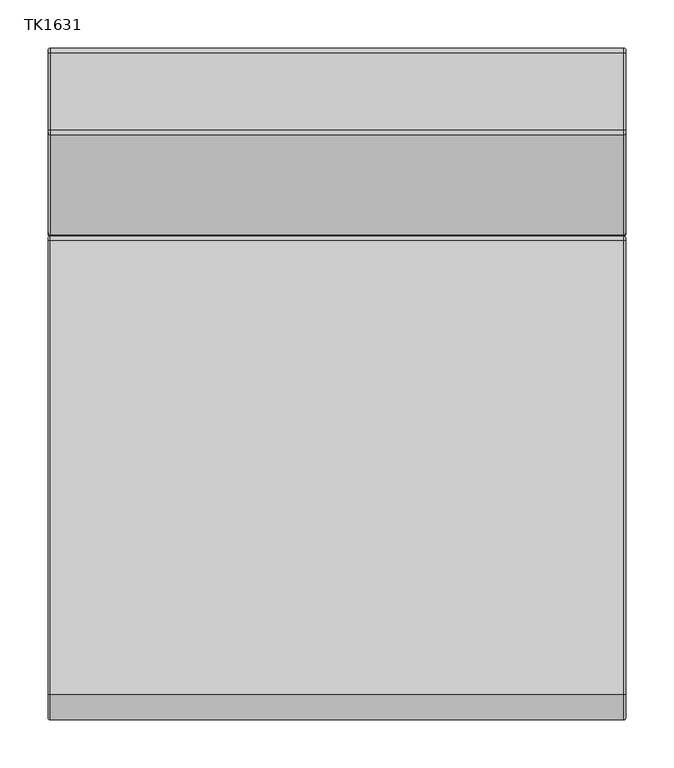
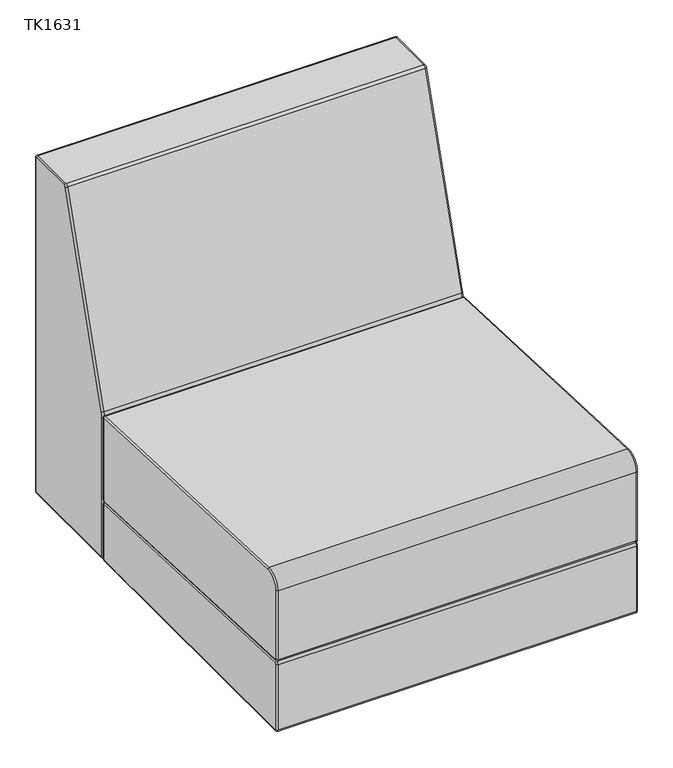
"""IFC4 building model written with IfcOpenShell, lengths in millimetres: furniture geometry, JSI-Teekan-Three_Seat_Lounge : TK1631."""

from ifc_helpers import new_model, si_unit, point, frame, origin, place, context, project, spatial, circle_curve, ellipse_curve, trimmed, source, transform, mapped, element, save
from ifc_brep_helpers import plane_surface, cylinder_surface, revolved_surface, advanced_brep


def tk1631_d5cb96e8(model_context):
    return source(origin(), model_context, "Body", "AdvancedBrep", [
        advanced_brep(
        [(899.5171875, 148.7693192, 295.6513391), (899.5171875, 153.733973, 300.4095468), (901.8984375, 151.352723, 300.4095468), (901.8984375, 148.8703961, 298.0304429), (303.0140625, 148.7693192, 295.6513391), (303.0140625, 153.733973, 300.4095468), (300.6328125, 148.8703961, 298.0304429), (300.6328125, 151.352723, 300.4095468), (901.8984375, -344.5512855, 318.9936072), (899.5171875, -344.6523625, 316.6145034), (303.0140625, -344.6523625, 316.6145034), (300.6328125, -344.5512855, 318.9936072), (899.5171875, -322.7527962, 467.50355), (901.8984375, -322.8538731, 465.1244462), (901.8984375, 149.0725499, 445.0745142), (899.5171875, 149.1736269, 447.4536181), (303.0140625, 149.1736269, 447.4536181), (303.0140625, -322.7527962, 467.50355), (300.6328125, 149.0725499, 445.0745142), (300.6328125, -322.8538731, 465.1244462), (901.8984375, 151.352723, 442.6954104), (899.5171875, 153.733973, 442.6954104), (303.0140625, 153.733973, 442.6954104), (300.6328125, 151.352723, 442.6954104), (901.8984375, -346.8497, 321.3917439), (899.5171875, -349.23095, 321.3917439), (303.0140625, -349.23095, 321.3917439), (300.6328125, -346.8497, 321.3917439), (901.8984375, -346.8497, 442.1264425), (899.5171875, -349.23095, 442.1264425), (303.0140625, -349.23095, 442.1264425), (300.6328125, -346.8497, 442.1264425)],
        [
            (0, 1, circle_curve(frame((899.5171875, 148.971473, 300.4095468), z_axis=(1.0, 0.0, 0.0), x_axis=(0.0, 1.0, 0.0)), 4.7625)),
            (1, 2, circle_curve(frame((899.5171875, 151.352723, 300.4095468), z_axis=(0.0, 0.0, -1.0), x_axis=(1.0, 0.0, 0.0)), 2.38125)),
            (2, 3, circle_curve(frame((901.8984375, 148.971473, 300.4095468), z_axis=(-1.0, 0.0, 0.0), x_axis=(0.0, 1.0, 0.0)), 2.38125)),
            (3, 0, circle_curve(frame((899.5171875, 148.8703961, 298.0304429), z_axis=(0.0, 0.9990987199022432, -0.04244700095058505), x_axis=(1.0, 0.0, 0.0)), 2.38125)),
            (0, 4),
            (4, 5, circle_curve(frame((303.0140625, 148.971473, 300.4095468), z_axis=(1.0, 0.0, 0.0), x_axis=(0.0, 1.0, 0.0)), 4.7625)),
            (5, 1),
            (4, 6, circle_curve(frame((303.0140625, 148.8703961, 298.0304429), z_axis=(0.0, 0.9990987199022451, -0.0424470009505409), x_axis=(1.0, 0.0, 0.0)), 2.38125)),
            (6, 7, circle_curve(frame((300.6328125, 148.971473, 300.4095468), z_axis=(1.0, 0.0, 0.0), x_axis=(0.0, 1.0, 0.0)), 2.38125)),
            (7, 5, circle_curve(frame((303.0140625, 151.352723, 300.4095468), z_axis=(0.0, 0.0, -1.0), x_axis=(1.0, 0.0, 0.0)), 2.38125)),
            (3, 8),
            (8, 9, circle_curve(frame((899.5171875, -344.5512855, 318.9936072), z_axis=(0.0, 0.9990987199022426, -0.04244700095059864), x_axis=(1.0, 0.0, 0.0)), 2.38125)),
            (9, 0),
            (9, 10),
            (10, 4),
            (10, 11, circle_curve(frame((303.0140625, -344.5512855, 318.9936072), z_axis=(0.0, 0.9990987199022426, -0.04244700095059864), x_axis=(1.0, 0.0, 0.0)), 2.38125)),
            (11, 6),
            (12, 13, circle_curve(frame((899.5171875, -322.8538731, 465.1244462), z_axis=(0.0, 0.9990987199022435, -0.0424470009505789), x_axis=(1.0, 0.0, 0.0)), 2.38125)),
            (13, 14),
            (14, 15, circle_curve(frame((899.5171875, 149.0725499, 445.0745142), z_axis=(0.0, -0.9990987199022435, 0.0424470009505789), x_axis=(1.0, 0.0, 0.0)), 2.38125)),
            (15, 12),
            (15, 16),
            (16, 17),
            (17, 12),
            (16, 18, circle_curve(frame((303.0140625, 149.0725499, 445.0745142), z_axis=(0.0, -0.9990987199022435, 0.0424470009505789), x_axis=(1.0, 0.0, 0.0)), 2.38125)),
            (18, 19),
            (19, 17, circle_curve(frame((303.0140625, -322.8538731, 465.1244462), z_axis=(0.0, 0.9990987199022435, -0.0424470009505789), x_axis=(1.0, 0.0, 0.0)), 2.38125)),
            (14, 20, circle_curve(frame((901.8984375, 148.971473, 442.6954104), z_axis=(-1.0, 0.0, 0.0), x_axis=(0.0, 0.04244700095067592, 0.9990987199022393)), 2.38125)),
            (20, 21, circle_curve(frame((899.5171875, 151.352723, 442.6954104), z_axis=(0.0, 0.0, 0.9999999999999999), x_axis=(1.0, 0.0, 0.0)), 2.38125)),
            (21, 15, circle_curve(frame((899.5171875, 148.971473, 442.6954104), z_axis=(1.0, 0.0, 0.0), x_axis=(0.0, 0.04244700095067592, 0.9990987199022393)), 4.7625)),
            (21, 22),
            (22, 16, circle_curve(frame((303.0140625, 148.971473, 442.6954104), z_axis=(1.0, 0.0, 0.0), x_axis=(0.0, 0.04244700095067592, 0.9990987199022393)), 4.7625)),
            (22, 23, circle_curve(frame((303.0140625, 151.352723, 442.6954104), z_axis=(0.0, 0.0, 1.0), x_axis=(1.0, 0.0, 0.0)), 2.38125)),
            (23, 18, circle_curve(frame((300.6328125, 148.971473, 442.6954104), z_axis=(1.0, 0.0, 0.0), x_axis=(0.0, 0.04244700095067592, 0.9990987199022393)), 2.38125)),
            (1, 21),
            (20, 2),
            (5, 22),
            (7, 23),
            (8, 24, circle_curve(frame((901.8984375, -344.4494, 321.3917439), z_axis=(-1.0, 0.0, 0.0), x_axis=(0.0, -0.04244700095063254, -0.9990987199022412)), 2.4003)),
            (24, 25, circle_curve(frame((899.5171875, -346.8497, 321.3917439), z_axis=(0.0, 0.0, -1.0), x_axis=(1.0, 0.0, 0.0)), 2.38125)),
            (25, 9, circle_curve(frame((899.5171875, -344.4494, 321.3917439), z_axis=(1.0, 0.0, 0.0), x_axis=(0.0, -0.04244700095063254, -0.9990987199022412)), 4.78155)),
            (25, 26),
            (26, 10, circle_curve(frame((303.0140625, -344.4494, 321.3917439), z_axis=(1.0, 0.0, 0.0), x_axis=(0.0, -0.04244700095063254, -0.9990987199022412)), 4.78155)),
            (26, 27, circle_curve(frame((303.0140625, -346.8497, 321.3917439), z_axis=(0.0, 0.0, -1.0), x_axis=(1.0, 0.0, 0.0)), 2.38125)),
            (27, 11, circle_curve(frame((300.6328125, -344.4494, 321.3917439), z_axis=(1.0, 0.0, 0.0), x_axis=(0.0, -0.04244700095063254, -0.9990987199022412)), 2.4003)),
            (24, 28),
            (28, 29, circle_curve(frame((899.5171875, -346.8497, 442.1264425), z_axis=(0.0, 0.0, -1.0), x_axis=(1.0, 0.0, 0.0)), 2.38125)),
            (29, 25),
            (29, 30),
            (30, 26),
            (30, 31, circle_curve(frame((303.0140625, -346.8497, 442.1264425), z_axis=(0.0, 0.0, -1.0), x_axis=(1.0, 0.0, 0.0)), 2.38125)),
            (31, 27),
            (13, 28, circle_curve(frame((901.8984375, -323.83095, 442.1264425), z_axis=(1.0, 0.0, 0.0), x_axis=(0.0, -1.0, 0.0)), 23.01875)),
            (12, 29, circle_curve(frame((899.5171875, -323.83095, 442.1264425), z_axis=(1.0, 0.0, 0.0), x_axis=(0.0, -1.0, 0.0)), 25.4)),
            (17, 30, circle_curve(frame((303.0140625, -323.83095, 442.1264425), z_axis=(1.0, 0.0, 0.0), x_axis=(0.0, -1.0, 0.0)), 25.4)),
            (19, 31, circle_curve(frame((300.6328125, -323.83095, 442.1264425), z_axis=(1.0, 0.0, 0.0), x_axis=(0.0, -1.0, 0.0)), 23.01875)),
        ],
        [
            revolved_surface(trimmed(ellipse_curve(frame((899.5171875, 151.352723, 300.4095468), z_axis=(0.0, 0.0, 1.0), x_axis=(1.0, 0.0, 0.0)), 2.38125, 2.38125), [point((901.8984375, 151.352723, 300.4095468))], [point((899.5171875, 153.733973, 300.4095468))], True, "CARTESIAN"), (601.265625, 148.971473, 300.4095468), (-1.0, 0.0, 0.0)),
            cylinder_surface(frame((601.265625, 148.971473, 300.4095468), z_axis=(-1.0, 0.0, 0.0), x_axis=(0.0, 1.0, 0.0)), 4.7625),
            revolved_surface(trimmed(ellipse_curve(frame((303.0140625, 151.352723, 300.4095468), z_axis=(0.0, 0.0, 1.0), x_axis=(1.0, 0.0, 0.0)), 2.38125, 2.38125), [point((303.0140625, 153.733973, 300.4095468))], [point((300.6328125, 151.352723, 300.4095468))], True, "CARTESIAN"), (601.265625, 148.971473, 300.4095468), (-1.0, 0.0, 0.0)),
            cylinder_surface(frame((899.5171875, 148.8703961, 298.0304429), z_axis=(0.0, 0.9990987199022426, -0.04244700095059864), x_axis=(1.0, 0.0, 0.0)), 2.38125),
            plane_surface(frame((899.5171875, 148.7693192, 295.6513391), z_axis=(0.0, -0.04244700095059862, -0.9990987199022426), x_axis=(0.0, -0.9990987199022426, 0.04244700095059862))),
            cylinder_surface(frame((303.0140625, 148.8703961, 298.0304429), z_axis=(0.0, 0.9990987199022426, -0.04244700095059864), x_axis=(1.0, 0.0, 0.0)), 2.38125),
            cylinder_surface(frame((899.5171875, -322.8538731, 465.1244462), z_axis=(0.0, -0.9990987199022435, 0.0424470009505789), x_axis=(1.0, 0.0, 0.0)), 2.38125),
            plane_surface(frame((899.5171875, -322.7527962, 467.50355), z_axis=(0.0, 0.04244700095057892, 0.9990987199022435), x_axis=(0.0, 0.9990987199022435, -0.04244700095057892))),
            cylinder_surface(frame((303.0140625, -322.8538731, 465.1244462), z_axis=(0.0, -0.9990987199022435, 0.0424470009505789), x_axis=(1.0, 0.0, 0.0)), 2.38125),
            revolved_surface(trimmed(ellipse_curve(frame((899.5171875, 149.0725499, 445.0745142), z_axis=(0.0, -0.9990987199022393, 0.04244700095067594), x_axis=(1.0, 0.0, 0.0)), 2.38125, 2.38125), [point((901.8984375, 149.0725499, 445.0745142))], [point((899.5171875, 149.1736269, 447.4536181))], True, "CARTESIAN"), (601.265625, 148.971473, 442.6954104), (-1.0, 0.0, 0.0)),
            cylinder_surface(frame((601.265625, 148.971473, 442.6954104), z_axis=(-1.0, 0.0, 0.0), x_axis=(0.0, 0.04244700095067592, 0.9990987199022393)), 4.7625),
            revolved_surface(trimmed(ellipse_curve(frame((303.0140625, 149.0725499, 445.0745142), z_axis=(0.0, -0.9990987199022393, 0.04244700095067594), x_axis=(1.0, 0.0, 0.0)), 2.38125, 2.38125), [point((303.0140625, 149.1736269, 447.4536181))], [point((300.6328125, 149.0725499, 445.0745142))], True, "CARTESIAN"), (601.265625, 148.971473, 442.6954104), (-1.0, 0.0, 0.0)),
            cylinder_surface(frame((899.5171875, 151.352723, 442.6954104), z_axis=(0.0, 0.0, 1.0), x_axis=(1.0, 0.0, 0.0)), 2.38125),
            plane_surface(frame((899.5171875, 153.733973, 442.6954104), z_axis=(0.0, 1.0, 0.0), x_axis=(0.0, 0.0, -1.0))),
            cylinder_surface(frame((303.0140625, 151.352723, 442.6954104), z_axis=(0.0, 0.0, 1.0), x_axis=(1.0, 0.0, 0.0)), 2.38125),
            revolved_surface(trimmed(ellipse_curve(frame((899.5171875, -344.5512855, 318.9936072), z_axis=(0.0, 0.9990987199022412, -0.042447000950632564), x_axis=(1.0, 0.0, 0.0)), 2.38125, 2.38125), [point((901.8984375, -344.5512855, 318.9936072))], [point((899.5171875, -344.6523625, 316.6145034))], True, "CARTESIAN"), (601.265625, -344.4494, 321.3917439), (-1.0, 0.0, 0.0)),
            cylinder_surface(frame((601.265625, -344.4494, 321.3917439), z_axis=(-1.0, 0.0, 0.0), x_axis=(0.0, -0.04244700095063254, -0.9990987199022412)), 4.78155),
            revolved_surface(trimmed(ellipse_curve(frame((303.0140625, -344.5512855, 318.9936072), z_axis=(0.0, 0.9990987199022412, -0.042447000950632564), x_axis=(1.0, 0.0, 0.0)), 2.38125, 2.38125), [point((303.0140625, -344.6523625, 316.6145034))], [point((300.6328125, -344.5512855, 318.9936072))], True, "CARTESIAN"), (601.265625, -344.4494, 321.3917439), (-1.0, 0.0, 0.0)),
            cylinder_surface(frame((899.5171875, -346.8497, 321.3917439), z_axis=(0.0, 0.0, -1.0), x_axis=(1.0, 0.0, 0.0)), 2.38125),
            plane_surface(frame((899.5171875, -349.23095, 321.3917439), z_axis=(0.0, -1.0, 0.0), x_axis=(0.0, 0.0, 1.0))),
            cylinder_surface(frame((303.0140625, -346.8497, 321.3917439), z_axis=(0.0, 0.0, -1.0), x_axis=(1.0, 0.0, 0.0)), 2.38125),
            plane_surface(frame((901.8984375, -323.83095, 442.1264425), z_axis=(1.0, 0.0, 0.0), x_axis=(0.0, -1.0, 0.0))),
            revolved_surface(trimmed(ellipse_curve(frame((899.5171875, -346.8497, 442.1264425), z_axis=(0.0, 0.0, -1.0), x_axis=(1.0, 0.0, 0.0)), 2.38125, 2.38125), [point((901.8984375, -346.8497, 442.1264425))], [point((899.5171875, -349.23095, 442.1264425))], True, "CARTESIAN"), (601.265625, -323.83095, 442.1264425), (-1.0, 0.0, 0.0)),
            cylinder_surface(frame((601.265625, -323.83095, 442.1264425), z_axis=(-1.0, 0.0, 0.0), x_axis=(0.0, -1.0, 0.0)), 25.4),
            revolved_surface(trimmed(ellipse_curve(frame((303.0140625, -346.8497, 442.1264425), z_axis=(0.0, 0.0, -1.0), x_axis=(1.0, 0.0, 0.0)), 2.38125, 2.38125), [point((303.0140625, -349.23095, 442.1264425))], [point((300.6328125, -346.8497, 442.1264425))], True, "CARTESIAN"), (601.265625, -323.83095, 442.1264425), (-1.0, 0.0, 0.0)),
            plane_surface(frame((300.6328125, -323.83095, 442.1264425), z_axis=(-1.0, 0.0, 0.0), x_axis=(0.0, -1.0, 0.0))),
        ],
        [
            (0, [[1, 2, 3, 4]]),
            (1, [[-1, 5, 6, 7]]),
            (2, [[-6, 8, 9, 10]]),
            (3, [[-4, 11, 12, 13]]),
            (4, [[-5, -13, 14, 15]]),
            (5, [[-8, -15, 16, 17]]),
            (6, [[18, 19, 20, 21]]),
            (7, [[-21, 22, 23, 24]]),
            (8, [[-23, 25, 26, 27]]),
            (9, [[-20, 28, 29, 30]]),
            (10, [[-22, -30, 31, 32]]),
            (11, [[-25, -32, 33, 34]]),
            (12, [[-2, 35, -29, 36]]),
            (13, [[-7, 37, -31, -35]]),
            (14, [[-10, 38, -33, -37]]),
            (15, [[-12, 39, 40, 41]]),
            (16, [[-14, -41, 42, 43]]),
            (17, [[-16, -43, 44, 45]]),
            (18, [[-40, 46, 47, 48]]),
            (19, [[-42, -48, 49, 50]]),
            (20, [[-44, -50, 51, 52]]),
            (21, [[-3, -36, -28, -19, 53, -46, -39, -11]]),
            (22, [[-18, 54, -47, -53]]),
            (23, [[-24, 55, -49, -54]]),
            (24, [[-27, 56, -51, -55]]),
            (25, [[-9, -17, -45, -52, -56, -26, -34, -38]]),
        ],
    ),
        advanced_brep(
        [(303.0140625, -349.25, 197.5346851), (899.5171875, -349.25, 197.5346851), (899.5171875, -349.25, 311.8407029), (303.0140625, -349.25, 311.8407029), (300.6328125, -346.86875, 311.8407029), (300.6328125, -346.86875, 197.5346851), (901.8984375, -346.86875, 197.5346851), (901.8984375, -346.86875, 311.8407029), (303.0140625, -344.2853462, 316.5989106), (899.5171875, -344.2853462, 316.5989106), (899.5171875, 149.169864, 295.6343219), (303.0140625, 149.169864, 295.6343219), (300.6328125, 149.0687871, 293.255218), (300.6328125, -344.3864231, 314.2198068), (901.8984375, -344.3864231, 314.2198068), (901.8984375, 149.0687871, 293.255218), (899.5171875, 153.7302102, 290.8761142), (303.0140625, 153.7302102, 290.8761142), (300.6328125, 151.3489602, 290.8761142), (901.8984375, 151.3489602, 290.8761142), (899.5171875, 153.7302102, 197.5346851), (303.0140625, 153.7302102, 197.5346851), (300.6328125, 151.3489602, 197.5346851), (901.8984375, 151.3489602, 197.5346851), (899.5171875, 148.9677102, 192.7721851), (303.0140625, 148.9677102, 192.7721851), (300.6328125, 148.9677102, 195.1534351), (901.8984375, 148.9677102, 195.1534351), (899.5171875, -344.4875, 192.7721851), (303.0140625, -344.4875, 192.7721851), (300.6328125, -344.4875, 195.1534351), (901.8984375, -344.4875, 195.1534351)],
        [
            (0, 1),
            (1, 2),
            (2, 3),
            (3, 0),
            (3, 4, circle_curve(frame((303.0140625, -346.86875, 311.8407029), z_axis=(0.0, 0.0, -1.0), x_axis=(0.0, -1.0, 0.0)), 2.38125)),
            (4, 5),
            (5, 0, circle_curve(frame((303.0140625, -346.86875, 197.5346851), z_axis=(0.0, 0.0, 1.0), x_axis=(0.0, -1.0, 0.0)), 2.38125)),
            (1, 6, circle_curve(frame((899.5171875, -346.86875, 197.5346851), z_axis=(0.0, 0.0, 1.0), x_axis=(0.0, -1.0, 0.0)), 2.38125)),
            (6, 7),
            (7, 2, circle_curve(frame((899.5171875, -346.86875, 311.8407029), z_axis=(0.0, 0.0, -1.0), x_axis=(0.0, -1.0, 0.0)), 2.38125)),
            (8, 9),
            (9, 10),
            (10, 11),
            (11, 8),
            (11, 12, circle_curve(frame((303.0140625, 149.0687871, 293.255218), z_axis=(0.0, -0.9990987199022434, 0.04244700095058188), x_axis=(0.0, 0.04244700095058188, 0.9990987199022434)), 2.38125)),
            (12, 13),
            (13, 8, circle_curve(frame((303.0140625, -344.3864231, 314.2198068), z_axis=(0.0, 0.9990987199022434, -0.04244700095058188), x_axis=(0.0, 0.04244700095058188, 0.9990987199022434)), 2.38125)),
            (9, 14, circle_curve(frame((899.5171875, -344.3864231, 314.2198068), z_axis=(0.0, 0.9990987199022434, -0.04244700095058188), x_axis=(0.0, 0.04244700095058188, 0.9990987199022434)), 2.38125)),
            (14, 15),
            (15, 10, circle_curve(frame((899.5171875, 149.0687871, 293.255218), z_axis=(0.0, -0.9990987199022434, 0.04244700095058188), x_axis=(0.0, 0.04244700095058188, 0.9990987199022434)), 2.38125)),
            (10, 16, circle_curve(frame((899.5171875, 148.9677102, 290.8761142), z_axis=(-1.0, 0.0, 0.0), x_axis=(0.0, 0.0424470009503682, 0.9990987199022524)), 4.7625)),
            (16, 17),
            (17, 11, circle_curve(frame((303.0140625, 148.9677102, 290.8761142), z_axis=(1.0, 0.0, 0.0), x_axis=(0.0, 0.0424470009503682, 0.9990987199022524)), 4.7625)),
            (17, 18, circle_curve(frame((303.0140625, 151.3489602, 290.8761142), z_axis=(0.0, 0.0, 1.0), x_axis=(0.0, 1.0, 0.0)), 2.38125)),
            (18, 12, circle_curve(frame((300.6328125, 148.9677102, 290.8761142), z_axis=(1.0, 0.0, 0.0), x_axis=(0.0, 0.0424470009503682, 0.9990987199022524)), 2.38125)),
            (15, 19, circle_curve(frame((901.8984375, 148.9677102, 290.8761142), z_axis=(-1.0, 0.0, 0.0), x_axis=(0.0, 0.0424470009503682, 0.9990987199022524)), 2.38125)),
            (19, 16, circle_curve(frame((899.5171875, 151.3489602, 290.8761142), z_axis=(0.0, 0.0, 1.0), x_axis=(0.0, 1.0, 0.0)), 2.38125)),
            (16, 20),
            (20, 21),
            (21, 17),
            (21, 22, circle_curve(frame((303.0140625, 151.3489602, 197.5346851), z_axis=(0.0, 0.0, 1.0), x_axis=(0.0, 1.0, 0.0)), 2.38125)),
            (22, 18),
            (19, 23),
            (23, 20, circle_curve(frame((899.5171875, 151.3489602, 197.5346851), z_axis=(0.0, 0.0, 1.0), x_axis=(0.0, 1.0, 0.0)), 2.38125)),
            (20, 24, circle_curve(frame((899.5171875, 148.9677102, 197.5346851), z_axis=(-1.0, 0.0, 0.0), x_axis=(0.0, 1.0, 0.0)), 4.7625)),
            (24, 25),
            (25, 21, circle_curve(frame((303.0140625, 148.9677102, 197.5346851), z_axis=(1.0, 0.0, 0.0), x_axis=(0.0, 1.0, 0.0)), 4.7625)),
            (25, 26, circle_curve(frame((303.0140625, 148.9677102, 195.1534351), z_axis=(0.0, 1.0, 0.0), x_axis=(0.0, 0.0, -1.0)), 2.38125)),
            (26, 22, circle_curve(frame((300.6328125, 148.9677102, 197.5346851), z_axis=(1.0, 0.0, 0.0), x_axis=(0.0, 1.0, 0.0)), 2.38125)),
            (23, 27, circle_curve(frame((901.8984375, 148.9677102, 197.5346851), z_axis=(-1.0, 0.0, 0.0), x_axis=(0.0, 1.0, 0.0)), 2.38125)),
            (27, 24, circle_curve(frame((899.5171875, 148.9677102, 195.1534351), z_axis=(0.0, 1.0, 0.0), x_axis=(0.0, 0.0, -1.0)), 2.38125)),
            (24, 28),
            (28, 29),
            (29, 25),
            (29, 30, circle_curve(frame((303.0140625, -344.4875, 195.1534351), z_axis=(0.0, 1.0, 0.0), x_axis=(0.0, 0.0, -1.0)), 2.38125)),
            (30, 26),
            (27, 31),
            (31, 28, circle_curve(frame((899.5171875, -344.4875, 195.1534351), z_axis=(0.0, 1.0, 0.0), x_axis=(0.0, 0.0, -1.0)), 2.38125)),
            (0, 29, circle_curve(frame((303.0140625, -344.4875, 197.5346851), z_axis=(1.0, 0.0, 0.0), x_axis=(0.0, 0.0, -1.0)), 4.7625)),
            (28, 1, circle_curve(frame((899.5171875, -344.4875, 197.5346851), z_axis=(-1.0, 0.0, 0.0), x_axis=(0.0, 0.0, -1.0)), 4.7625)),
            (5, 30, circle_curve(frame((300.6328125, -344.4875, 197.5346851), z_axis=(1.0, 0.0, 0.0), x_axis=(0.0, 0.0, -1.0)), 2.38125)),
            (31, 6, circle_curve(frame((901.8984375, -344.4875, 197.5346851), z_axis=(-1.0, 0.0, 0.0), x_axis=(0.0, 0.0, -1.0)), 2.38125)),
            (2, 9, circle_curve(frame((899.5171875, -344.4875, 311.8407029), z_axis=(-1.0, 0.0, 0.0), x_axis=(0.0, -1.0, 0.0)), 4.7625)),
            (8, 3, circle_curve(frame((303.0140625, -344.4875, 311.8407029), z_axis=(1.0, 0.0, 0.0), x_axis=(0.0, -1.0, 0.0)), 4.7625)),
            (13, 4, circle_curve(frame((300.6328125, -344.4875, 311.8407029), z_axis=(1.0, 0.0, 0.0), x_axis=(0.0, -1.0, 0.0)), 2.38125)),
            (14, 7, circle_curve(frame((901.8984375, -344.4875, 311.8407029), z_axis=(1.0, 0.0, 0.0), x_axis=(0.0, -1.0, 0.0)), 2.38125)),
        ],
        [
            plane_surface(frame((899.5171875, -349.25, 197.5346851), z_axis=(0.0, -1.0, 0.0), x_axis=(0.0, 0.0, 1.0))),
            cylinder_surface(frame((303.0140625, -346.86875, 197.5346851), z_axis=(0.0, 0.0, -1.0), x_axis=(0.0, -1.0, 0.0)), 2.38125),
            cylinder_surface(frame((899.5171875, -346.86875, 197.5346851), z_axis=(0.0, 0.0, -1.0), x_axis=(0.0, -1.0, 0.0)), 2.38125),
            plane_surface(frame((899.5171875, -344.2853462, 316.5989106), z_axis=(0.0, 0.04244700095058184, 0.9990987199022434), x_axis=(0.0, 0.9990987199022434, -0.04244700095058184))),
            cylinder_surface(frame((303.0140625, -344.3864231, 314.2198068), z_axis=(0.0, -0.9990987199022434, 0.04244700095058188), x_axis=(0.0, 0.04244700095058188, 0.9990987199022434)), 2.38125),
            cylinder_surface(frame((899.5171875, -344.3864231, 314.2198068), z_axis=(0.0, -0.9990987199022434, 0.04244700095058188), x_axis=(0.0, 0.04244700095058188, 0.9990987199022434)), 2.38125),
            cylinder_surface(frame((601.265625, 148.9677102, 290.8761142), z_axis=(-1.0, 0.0, 0.0), x_axis=(0.0, 0.0424470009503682, 0.9990987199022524)), 4.7625),
            revolved_surface(trimmed(ellipse_curve(frame((303.0140625, 149.0687871, 293.255218), z_axis=(0.0, -0.9990987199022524, 0.042447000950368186), x_axis=(0.0, 0.042447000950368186, 0.9990987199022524)), 2.38125, 2.38125), [point((303.0140625, 149.169864, 295.6343219))], [point((300.6328125, 149.0687871, 293.255218))], True, "CARTESIAN"), (601.265625, 148.9677102, 290.8761142), (-1.0, 0.0, 0.0)),
            revolved_surface(trimmed(ellipse_curve(frame((899.5171875, 149.0687871, 293.255218), z_axis=(0.0, -0.9990987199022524, 0.042447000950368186), x_axis=(0.0, 0.042447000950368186, 0.9990987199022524)), 2.38125, 2.38125), [point((901.8984375, 149.0687871, 293.255218))], [point((899.5171875, 149.169864, 295.6343219))], True, "CARTESIAN"), (601.265625, 148.9677102, 290.8761142), (-1.0, 0.0, 0.0)),
            plane_surface(frame((899.5171875, 153.7302102, 290.8761142), z_axis=(0.0, 1.0, 0.0), x_axis=(0.0, 0.0, -1.0))),
            cylinder_surface(frame((303.0140625, 151.3489602, 290.8761142), z_axis=(0.0, 0.0, 1.0), x_axis=(0.0, 1.0, 0.0)), 2.38125),
            cylinder_surface(frame((899.5171875, 151.3489602, 290.8761142), z_axis=(0.0, 0.0, 1.0), x_axis=(0.0, 1.0, 0.0)), 2.38125),
            cylinder_surface(frame((601.265625, 148.9677102, 197.5346851), z_axis=(-1.0, 0.0, 0.0), x_axis=(0.0, 1.0, 0.0)), 4.7625),
            revolved_surface(trimmed(ellipse_curve(frame((303.0140625, 151.3489602, 197.5346851), z_axis=(0.0, 0.0, 1.0), x_axis=(0.0, 1.0, 0.0)), 2.38125, 2.38125), [point((303.0140625, 153.7302102, 197.5346851))], [point((300.6328125, 151.3489602, 197.5346851))], True, "CARTESIAN"), (601.265625, 148.9677102, 197.5346851), (-1.0, 0.0, 0.0)),
            revolved_surface(trimmed(ellipse_curve(frame((899.5171875, 151.3489602, 197.5346851), z_axis=(0.0, 0.0, 1.0), x_axis=(0.0, 1.0, 0.0)), 2.38125, 2.38125), [point((901.8984375, 151.3489602, 197.5346851))], [point((899.5171875, 153.7302102, 197.5346851))], True, "CARTESIAN"), (601.265625, 148.9677102, 197.5346851), (-1.0, 0.0, 0.0)),
            plane_surface(frame((899.5171875, 148.9677102, 192.7721851), z_axis=(0.0, 0.0, -1.0), x_axis=(0.0, -1.0, 0.0))),
            cylinder_surface(frame((303.0140625, 148.9677102, 195.1534351), z_axis=(0.0, 1.0, 0.0), x_axis=(0.0, 0.0, -1.0)), 2.38125),
            cylinder_surface(frame((899.5171875, 148.9677102, 195.1534351), z_axis=(0.0, 1.0, 0.0), x_axis=(0.0, 0.0, -1.0)), 2.38125),
            cylinder_surface(frame((601.265625, -344.4875, 197.5346851), z_axis=(-1.0, 0.0, 0.0), x_axis=(0.0, 0.0, -1.0)), 4.7625),
            revolved_surface(trimmed(ellipse_curve(frame((303.0140625, -344.4875, 195.1534351), z_axis=(0.0, 1.0, 0.0), x_axis=(0.0, 0.0, -1.0)), 2.38125, 2.38125), [point((303.0140625, -344.4875, 192.7721851))], [point((300.6328125, -344.4875, 195.1534351))], True, "CARTESIAN"), (601.265625, -344.4875, 197.5346851), (-1.0, 0.0, 0.0)),
            revolved_surface(trimmed(ellipse_curve(frame((899.5171875, -344.4875, 195.1534351), z_axis=(0.0, 1.0, 0.0), x_axis=(0.0, 0.0, -1.0)), 2.38125, 2.38125), [point((901.8984375, -344.4875, 195.1534351))], [point((899.5171875, -344.4875, 192.7721851))], True, "CARTESIAN"), (601.265625, -344.4875, 197.5346851), (-1.0, 0.0, 0.0)),
            cylinder_surface(frame((601.265625, -344.4875, 311.8407029), z_axis=(-1.0, 0.0, 0.0), x_axis=(0.0, -1.0, 0.0)), 4.7625),
            revolved_surface(trimmed(ellipse_curve(frame((303.0140625, -346.86875, 311.8407029), z_axis=(0.0, 0.0, -1.0), x_axis=(0.0, -1.0, 0.0)), 2.38125, 2.38125), [point((303.0140625, -349.25, 311.8407029))], [point((300.6328125, -346.86875, 311.8407029))], True, "CARTESIAN"), (601.265625, -344.4875, 311.8407029), (-1.0, 0.0, 0.0)),
            plane_surface(frame((300.6328125, -344.4875, 311.8407029), z_axis=(-1.0, 0.0, 0.0), x_axis=(0.0, -1.0, 0.0))),
            plane_surface(frame((901.8984375, -344.4875, 311.8407029), z_axis=(1.0, 0.0, 0.0), x_axis=(0.0, -1.0, 0.0))),
            revolved_surface(trimmed(ellipse_curve(frame((899.5171875, -346.86875, 311.8407029), z_axis=(0.0, 0.0, -1.0), x_axis=(0.0, -1.0, 0.0)), 2.38125, 2.38125), [point((901.8984375, -346.86875, 311.8407029))], [point((899.5171875, -349.25, 311.8407029))], True, "CARTESIAN"), (601.265625, -344.4875, 311.8407029), (-1.0, 0.0, 0.0)),
        ],
        [
            (0, [[1, 2, 3, 4]]),
            (1, [[-4, 5, 6, 7]]),
            (2, [[-2, 8, 9, 10]]),
            (3, [[11, 12, 13, 14]]),
            (4, [[-14, 15, 16, 17]]),
            (5, [[-12, 18, 19, 20]]),
            (6, [[-13, 21, 22, 23]]),
            (7, [[-15, -23, 24, 25]]),
            (8, [[-20, 26, 27, -21]]),
            (9, [[-22, 28, 29, 30]]),
            (10, [[-24, -30, 31, 32]]),
            (11, [[-27, 33, 34, -28]]),
            (12, [[-29, 35, 36, 37]]),
            (13, [[-31, -37, 38, 39]]),
            (14, [[-34, 40, 41, -35]]),
            (15, [[-36, 42, 43, 44]]),
            (16, [[-38, -44, 45, 46]]),
            (17, [[-41, 47, 48, -42]]),
            (18, [[-1, 49, -43, 50]]),
            (19, [[-7, 51, -45, -49]]),
            (20, [[-8, -50, -48, 52]]),
            (21, [[-3, 53, -11, 54]]),
            (22, [[-5, -54, -17, 55]]),
            (23, [[-6, -55, -16, -25, -32, -39, -46, -51]]),
            (24, [[-9, -52, -47, -40, -33, -26, -19, 56]]),
            (25, [[-10, -56, -18, -53]]),
        ],
    ),
        advanced_brep(
        [(901.8984375, 261.4671324, 783.3496278), (901.8984375, 263.7394056, 785.01875), (899.5171875, 263.7394056, 787.4), (899.5171875, 259.1948592, 784.0617556), (303.0140625, 259.1948592, 784.0617556), (303.0140625, 263.7394056, 787.4), (300.6328125, 263.7394056, 785.01875), (300.6328125, 261.4671324, 783.3496278), (899.5171875, 155.07802, 451.8434221), (901.8984375, 157.3502932, 451.1312943), (300.6328125, 157.3502932, 451.1312943), (303.0140625, 155.07802, 451.8434221), (899.5171875, 153.733973, 443.0605128), (901.8984375, 156.115223, 443.0605128), (300.6328125, 156.115223, 443.0605128), (303.0140625, 153.733973, 443.0605128), (899.5171875, 153.733973, 197.5346851), (901.8984375, 156.115223, 197.5346851), (300.6328125, 156.115223, 197.5346851), (303.0140625, 153.733973, 197.5346851), (899.5171875, 158.496473, 192.7721851), (901.8984375, 158.496473, 195.1534351), (300.6328125, 158.496473, 195.1534351), (303.0140625, 158.496473, 192.7721851), (899.5171875, 344.4875, 192.7721851), (901.8984375, 344.4875, 195.1534351), (300.6328125, 344.4875, 195.1534351), (303.0140625, 344.4875, 192.7721851), (899.5171875, 349.25, 197.5346851), (901.8984375, 346.86875, 197.5346851), (300.6328125, 346.86875, 197.5346851), (303.0140625, 349.25, 197.5346851), (899.5171875, 349.25, 782.6375), (901.8984375, 346.86875, 782.6375), (300.6328125, 346.86875, 782.6375), (303.0140625, 349.25, 782.6375), (899.5171875, 344.4875, 787.4), (901.8984375, 344.4875, 785.01875), (300.6328125, 344.4875, 785.01875), (303.0140625, 344.4875, 787.4)],
        [
            (0, 1, circle_curve(frame((901.8984375, 263.7394056, 782.6375), z_axis=(-1.0, 0.0, 0.0), x_axis=(0.0, 0.0, 1.0)), 2.38125)),
            (1, 2, circle_curve(frame((899.5171875, 263.7394056, 785.01875), z_axis=(0.0, -1.0, 0.0), x_axis=(0.0, 0.0, -1.0)), 2.38125)),
            (2, 3, circle_curve(frame((899.5171875, 263.7394056, 782.6375), z_axis=(1.0, 0.0, 0.0), x_axis=(0.0, 0.0, 1.0)), 4.7625)),
            (3, 0, circle_curve(frame((899.5171875, 261.4671324, 783.3496278), z_axis=(0.0, 0.2990562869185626, 0.9542354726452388), x_axis=(0.0, 0.9542354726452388, -0.2990562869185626)), 2.38125)),
            (4, 5, circle_curve(frame((303.0140625, 263.7394056, 782.6375), z_axis=(-1.0, 0.0, 0.0), x_axis=(0.0, 0.0, 1.0)), 4.7625)),
            (5, 6, circle_curve(frame((303.0140625, 263.7394056, 785.01875), z_axis=(0.0, -1.0, 0.0), x_axis=(0.0, 0.0, -1.0)), 2.38125)),
            (6, 7, circle_curve(frame((300.6328125, 263.7394056, 782.6375), z_axis=(1.0, 0.0, 0.0), x_axis=(0.0, 0.0, 1.0)), 2.38125)),
            (7, 4, circle_curve(frame((303.0140625, 261.4671324, 783.3496278), z_axis=(0.0, 0.29905628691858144, 0.9542354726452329), x_axis=(0.0, 0.9542354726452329, -0.29905628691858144)), 2.38125)),
            (2, 5),
            (4, 3),
            (3, 8),
            (8, 9, circle_curve(frame((899.5171875, 157.3502932, 451.1312943), z_axis=(0.0, 0.29905628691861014, 0.954235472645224), x_axis=(0.0, 0.954235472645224, -0.29905628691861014)), 2.38125)),
            (9, 0),
            (7, 10),
            (10, 11, circle_curve(frame((303.0140625, 157.3502932, 451.1312943), z_axis=(0.0, 0.29905628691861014, 0.954235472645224), x_axis=(0.0, 0.954235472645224, -0.29905628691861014)), 2.38125)),
            (11, 4),
            (11, 8),
            (8, 12, circle_curve(frame((899.5171875, 183.102723, 443.0605128), z_axis=(1.0, 0.0, 0.0), x_axis=(0.0, -0.9542354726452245, 0.29905628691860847)), 29.36875)),
            (12, 13, circle_curve(frame((899.5171875, 156.115223, 443.0605128), z_axis=(0.0, 0.0, 1.0), x_axis=(0.0, 1.0, 0.0)), 2.38125)),
            (13, 9, circle_curve(frame((901.8984375, 183.102723, 443.0605128), z_axis=(-1.0, 0.0, 0.0), x_axis=(0.0, -0.9542354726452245, 0.29905628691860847)), 26.9875)),
            (10, 14, circle_curve(frame((300.6328125, 183.102723, 443.0605128), z_axis=(1.0, 0.0, 0.0), x_axis=(0.0, -0.9542354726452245, 0.29905628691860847)), 26.9875)),
            (14, 15, circle_curve(frame((303.0140625, 156.115223, 443.0605128), z_axis=(0.0, 0.0, 1.0), x_axis=(0.0, 1.0, 0.0)), 2.38125)),
            (15, 11, circle_curve(frame((303.0140625, 183.102723, 443.0605128), z_axis=(-1.0, 0.0, 0.0), x_axis=(0.0, -0.9542354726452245, 0.29905628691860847)), 29.36875)),
            (15, 12),
            (12, 16),
            (16, 17, circle_curve(frame((899.5171875, 156.115223, 197.5346851), z_axis=(0.0, 0.0, 1.0), x_axis=(0.0, 1.0, 0.0)), 2.38125)),
            (17, 13),
            (14, 18),
            (18, 19, circle_curve(frame((303.0140625, 156.115223, 197.5346851), z_axis=(0.0, 0.0, 1.0), x_axis=(0.0, 1.0, 0.0)), 2.38125)),
            (19, 15),
            (19, 16),
            (16, 20, circle_curve(frame((899.5171875, 158.496473, 197.5346851), z_axis=(1.0, 0.0, 0.0), x_axis=(0.0, -1.0, 0.0)), 4.7625)),
            (20, 21, circle_curve(frame((899.5171875, 158.496473, 195.1534351), z_axis=(0.0, -1.0, 0.0), x_axis=(0.0, 0.0, 1.0)), 2.38125)),
            (21, 17, circle_curve(frame((901.8984375, 158.496473, 197.5346851), z_axis=(-1.0, 0.0, 0.0), x_axis=(0.0, -1.0, 0.0)), 2.38125)),
            (18, 22, circle_curve(frame((300.6328125, 158.496473, 197.5346851), z_axis=(1.0, 0.0, 0.0), x_axis=(0.0, -1.0, 0.0)), 2.38125)),
            (22, 23, circle_curve(frame((303.0140625, 158.496473, 195.1534351), z_axis=(0.0, -1.0, 0.0), x_axis=(0.0, 0.0, 1.0)), 2.38125)),
            (23, 19, circle_curve(frame((303.0140625, 158.496473, 197.5346851), z_axis=(-1.0, 0.0, 0.0), x_axis=(0.0, -1.0, 0.0)), 4.7625)),
            (23, 20),
            (20, 24),
            (24, 25, circle_curve(frame((899.5171875, 344.4875, 195.1534351), z_axis=(0.0, -1.0, 0.0), x_axis=(0.0, 0.0, 1.0)), 2.38125)),
            (25, 21),
            (22, 26),
            (26, 27, circle_curve(frame((303.0140625, 344.4875, 195.1534351), z_axis=(0.0, -1.0, 0.0), x_axis=(0.0, 0.0, 1.0)), 2.38125)),
            (27, 23),
            (27, 24),
            (24, 28, circle_curve(frame((899.5171875, 344.4875, 197.5346851), z_axis=(1.0, 0.0, 0.0), x_axis=(0.0, 0.0, -1.0)), 4.7625)),
            (28, 29, circle_curve(frame((899.5171875, 346.86875, 197.5346851), z_axis=(0.0, 0.0, -1.0), x_axis=(0.0, -1.0, 0.0)), 2.38125)),
            (29, 25, circle_curve(frame((901.8984375, 344.4875, 197.5346851), z_axis=(-1.0, 0.0, 0.0), x_axis=(0.0, 0.0, -1.0)), 2.38125)),
            (26, 30, circle_curve(frame((300.6328125, 344.4875, 197.5346851), z_axis=(1.0, 0.0, 0.0), x_axis=(0.0, 0.0, -1.0)), 2.38125)),
            (30, 31, circle_curve(frame((303.0140625, 346.86875, 197.5346851), z_axis=(0.0, 0.0, -1.0), x_axis=(0.0, -1.0, 0.0)), 2.38125)),
            (31, 27, circle_curve(frame((303.0140625, 344.4875, 197.5346851), z_axis=(-1.0, 0.0, 0.0), x_axis=(0.0, 0.0, -1.0)), 4.7625)),
            (31, 28),
            (28, 32),
            (32, 33, circle_curve(frame((899.5171875, 346.86875, 782.6375), z_axis=(0.0, 0.0, -1.0), x_axis=(0.0, -1.0, 0.0)), 2.38125)),
            (33, 29),
            (30, 34),
            (34, 35, circle_curve(frame((303.0140625, 346.86875, 782.6375), z_axis=(0.0, 0.0, -1.0), x_axis=(0.0, -1.0, 0.0)), 2.38125)),
            (35, 31),
            (35, 32),
            (32, 36, circle_curve(frame((899.5171875, 344.4875, 782.6375), z_axis=(1.0, 0.0, 0.0), x_axis=(0.0, 1.0, 0.0)), 4.7625)),
            (36, 37, circle_curve(frame((899.5171875, 344.4875, 785.01875), z_axis=(0.0, 1.0, 0.0), x_axis=(0.0, 0.0, -1.0)), 2.38125)),
            (37, 33, circle_curve(frame((901.8984375, 344.4875, 782.6375), z_axis=(-1.0, 0.0, 0.0), x_axis=(0.0, 1.0, 0.0)), 2.38125)),
            (34, 38, circle_curve(frame((300.6328125, 344.4875, 782.6375), z_axis=(1.0, 0.0, 0.0), x_axis=(0.0, 1.0, 0.0)), 2.38125)),
            (38, 39, circle_curve(frame((303.0140625, 344.4875, 785.01875), z_axis=(0.0, 1.0, 0.0), x_axis=(0.0, 0.0, -1.0)), 2.38125)),
            (39, 35, circle_curve(frame((303.0140625, 344.4875, 782.6375), z_axis=(-1.0, 0.0, 0.0), x_axis=(0.0, 1.0, 0.0)), 4.7625)),
            (39, 36),
            (1, 37),
            (36, 2),
            (6, 38),
            (5, 39),
        ],
        [
            revolved_surface(trimmed(ellipse_curve(frame((899.5171875, 263.7394056, 785.01875), z_axis=(0.0, 1.0, 0.0), x_axis=(0.0, 0.0, -1.0)), 2.38125, 2.38125), [point((899.5171875, 263.7394056, 787.4))], [point((901.8984375, 263.7394056, 785.01875))], True, "CARTESIAN"), (601.265625, 263.7394056, 782.6375), (1.0, 0.0, 0.0)),
            revolved_surface(trimmed(ellipse_curve(frame((303.0140625, 263.7394056, 785.01875), z_axis=(0.0, 1.0, 0.0), x_axis=(0.0, 0.0, -1.0)), 2.38125, 2.38125), [point((300.6328125, 263.7394056, 785.01875))], [point((303.0140625, 263.7394056, 787.4))], True, "CARTESIAN"), (601.265625, 263.7394056, 782.6375), (1.0, 0.0, 0.0)),
            cylinder_surface(frame((601.265625, 263.7394056, 782.6375), z_axis=(1.0, 0.0, 0.0), x_axis=(0.0, 0.0, 1.0)), 4.7625),
            cylinder_surface(frame((899.5171875, 261.4671324, 783.3496278), z_axis=(0.0, 0.29905628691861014, 0.954235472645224), x_axis=(0.0, 0.954235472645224, -0.29905628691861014)), 2.38125),
            cylinder_surface(frame((303.0140625, 261.4671324, 783.3496278), z_axis=(0.0, 0.29905628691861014, 0.954235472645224), x_axis=(0.0, 0.954235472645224, -0.29905628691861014)), 2.38125),
            plane_surface(frame((303.0140625, 259.1948592, 784.0617556), z_axis=(0.0, -0.9542354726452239, 0.29905628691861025), x_axis=(0.0, -0.29905628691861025, -0.9542354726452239))),
            revolved_surface(trimmed(ellipse_curve(frame((899.5171875, 157.3502932, 451.1312943), z_axis=(0.0, 0.299056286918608, 0.9542354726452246), x_axis=(0.0, 0.9542354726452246, -0.299056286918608)), 2.38125, 2.38125), [point((899.5171875, 155.07802, 451.8434221))], [point((901.8984375, 157.3502932, 451.1312943))], True, "CARTESIAN"), (601.265625, 183.102723, 443.0605128), (1.0, 0.0, 0.0)),
            revolved_surface(trimmed(ellipse_curve(frame((303.0140625, 157.3502932, 451.1312943), z_axis=(0.0, 0.299056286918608, 0.9542354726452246), x_axis=(0.0, 0.9542354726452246, -0.299056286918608)), 2.38125, 2.38125), [point((300.6328125, 157.3502932, 451.1312943))], [point((303.0140625, 155.07802, 451.8434221))], True, "CARTESIAN"), (601.265625, 183.102723, 443.0605128), (1.0, 0.0, 0.0)),
            cylinder_surface(frame((601.265625, 183.102723, 443.0605128), z_axis=(1.0, 0.0, 0.0), x_axis=(0.0, -0.9542354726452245, 0.29905628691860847)), 29.36875),
            cylinder_surface(frame((899.5171875, 156.115223, 443.0605128), z_axis=(0.0, 0.0, 1.0), x_axis=(0.0, 1.0, 0.0)), 2.38125),
            cylinder_surface(frame((303.0140625, 156.115223, 443.0605128), z_axis=(0.0, 0.0, 1.0), x_axis=(0.0, 1.0, 0.0)), 2.38125),
            plane_surface(frame((303.0140625, 153.733973, 443.0605128), z_axis=(0.0, -1.0, 0.0), x_axis=(0.0, 0.0, -1.0))),
            revolved_surface(trimmed(ellipse_curve(frame((899.5171875, 156.115223, 197.5346851), z_axis=(0.0, 0.0, 1.0), x_axis=(0.0, 1.0, 0.0)), 2.38125, 2.38125), [point((899.5171875, 153.733973, 197.5346851))], [point((901.8984375, 156.115223, 197.5346851))], True, "CARTESIAN"), (601.265625, 158.496473, 197.5346851), (1.0, 0.0, 0.0)),
            revolved_surface(trimmed(ellipse_curve(frame((303.0140625, 156.115223, 197.5346851), z_axis=(0.0, 0.0, 1.0), x_axis=(0.0, 1.0, 0.0)), 2.38125, 2.38125), [point((300.6328125, 156.115223, 197.5346851))], [point((303.0140625, 153.733973, 197.5346851))], True, "CARTESIAN"), (601.265625, 158.496473, 197.5346851), (1.0, 0.0, 0.0)),
            cylinder_surface(frame((601.265625, 158.496473, 197.5346851), z_axis=(1.0, 0.0, 0.0), x_axis=(0.0, -1.0, 0.0)), 4.7625),
            cylinder_surface(frame((899.5171875, 158.496473, 195.1534351), z_axis=(0.0, -1.0, 0.0), x_axis=(0.0, 0.0, 1.0)), 2.38125),
            cylinder_surface(frame((303.0140625, 158.496473, 195.1534351), z_axis=(0.0, -1.0, 0.0), x_axis=(0.0, 0.0, 1.0)), 2.38125),
            plane_surface(frame((303.0140625, 158.496473, 192.7721851), z_axis=(0.0, 0.0, -1.0), x_axis=(0.0, 1.0, 0.0))),
            revolved_surface(trimmed(ellipse_curve(frame((899.5171875, 344.4875, 195.1534351), z_axis=(0.0, -1.0, 0.0), x_axis=(0.0, 0.0, 1.0)), 2.38125, 2.38125), [point((899.5171875, 344.4875, 192.7721851))], [point((901.8984375, 344.4875, 195.1534351))], True, "CARTESIAN"), (601.265625, 344.4875, 197.5346851), (1.0, 0.0, 0.0)),
            revolved_surface(trimmed(ellipse_curve(frame((303.0140625, 344.4875, 195.1534351), z_axis=(0.0, -1.0, 0.0), x_axis=(0.0, 0.0, 1.0)), 2.38125, 2.38125), [point((300.6328125, 344.4875, 195.1534351))], [point((303.0140625, 344.4875, 192.7721851))], True, "CARTESIAN"), (601.265625, 344.4875, 197.5346851), (1.0, 0.0, 0.0)),
            cylinder_surface(frame((601.265625, 344.4875, 197.5346851), z_axis=(1.0, 0.0, 0.0), x_axis=(0.0, 0.0, -1.0)), 4.7625),
            cylinder_surface(frame((899.5171875, 346.86875, 197.5346851), z_axis=(0.0, 0.0, -1.0), x_axis=(0.0, -1.0, 0.0)), 2.38125),
            cylinder_surface(frame((303.0140625, 346.86875, 197.5346851), z_axis=(0.0, 0.0, -1.0), x_axis=(0.0, -1.0, 0.0)), 2.38125),
            plane_surface(frame((303.0140625, 349.25, 197.5346851), z_axis=(0.0, 1.0, 0.0), x_axis=(0.0, 0.0, 1.0))),
            revolved_surface(trimmed(ellipse_curve(frame((899.5171875, 346.86875, 782.6375), z_axis=(0.0, 0.0, -1.0), x_axis=(0.0, -1.0, 0.0)), 2.38125, 2.38125), [point((899.5171875, 349.25, 782.6375))], [point((901.8984375, 346.86875, 782.6375))], True, "CARTESIAN"), (601.265625, 344.4875, 782.6375), (1.0, 0.0, 0.0)),
            revolved_surface(trimmed(ellipse_curve(frame((303.0140625, 346.86875, 782.6375), z_axis=(0.0, 0.0, -1.0), x_axis=(0.0, -1.0, 0.0)), 2.38125, 2.38125), [point((300.6328125, 346.86875, 782.6375))], [point((303.0140625, 349.25, 782.6375))], True, "CARTESIAN"), (601.265625, 344.4875, 782.6375), (1.0, 0.0, 0.0)),
            cylinder_surface(frame((601.265625, 344.4875, 782.6375), z_axis=(1.0, 0.0, 0.0), x_axis=(0.0, 1.0, 0.0)), 4.7625),
            cylinder_surface(frame((899.5171875, 344.4875, 785.01875), z_axis=(0.0, 1.0, 0.0), x_axis=(0.0, 0.0, -1.0)), 2.38125),
            plane_surface(frame((901.8984375, 344.4875, 785.01875), z_axis=(1.0, 0.0, 0.0), x_axis=(0.0, -1.0, 0.0))),
            plane_surface(frame((300.6328125, 344.4875, 783.43125), z_axis=(-1.0, 0.0, 0.0), x_axis=(0.0, -1.0, 0.0))),
            cylinder_surface(frame((303.0140625, 344.4875, 785.01875), z_axis=(0.0, 1.0, 0.0), x_axis=(0.0, 0.0, -1.0)), 2.38125),
            plane_surface(frame((303.0140625, 344.4875, 787.4), z_axis=(0.0, 0.0, 1.0), x_axis=(0.0, -1.0, 0.0))),
        ],
        [
            (0, [[1, 2, 3, 4]]),
            (1, [[5, 6, 7, 8]]),
            (2, [[-3, 9, -5, 10]]),
            (3, [[-4, 11, 12, 13]]),
            (4, [[-8, 14, 15, 16]]),
            (5, [[-10, -16, 17, -11]]),
            (6, [[-12, 18, 19, 20]]),
            (7, [[-15, 21, 22, 23]]),
            (8, [[-17, -23, 24, -18]]),
            (9, [[-19, 25, 26, 27]]),
            (10, [[-22, 28, 29, 30]]),
            (11, [[-24, -30, 31, -25]]),
            (12, [[-26, 32, 33, 34]]),
            (13, [[-29, 35, 36, 37]]),
            (14, [[-31, -37, 38, -32]]),
            (15, [[-33, 39, 40, 41]]),
            (16, [[-36, 42, 43, 44]]),
            (17, [[-38, -44, 45, -39]]),
            (18, [[-40, 46, 47, 48]]),
            (19, [[-43, 49, 50, 51]]),
            (20, [[-45, -51, 52, -46]]),
            (21, [[-47, 53, 54, 55]]),
            (22, [[-50, 56, 57, 58]]),
            (23, [[-52, -58, 59, -53]]),
            (24, [[-54, 60, 61, 62]]),
            (25, [[-57, 63, 64, 65]]),
            (26, [[-59, -65, 66, -60]]),
            (27, [[-2, 67, -61, 68]]),
            (28, [[-1, -13, -20, -27, -34, -41, -48, -55, -62, -67]]),
            (29, [[-7, 69, -63, -56, -49, -42, -35, -28, -21, -14]]),
            (30, [[-6, 70, -64, -69]]),
            (31, [[-9, -68, -66, -70]]),
        ],
    ),
    ])


if __name__ == "__main__":
    model = new_model("IFC4")
    model_context = context("Model", 3, world=origin())
    ifc_project = project(units=[si_unit("LENGTHUNIT", "METRE", prefix="MILLI")], contexts=[model_context])
    site = spatial("IfcSite", under=ifc_project)
    building = spatial("IfcBuilding", under=site)
    placement = place(None, origin())
    tk1631_shape = tk1631_d5cb96e8(model_context)
    element("IfcFurniture", 1, ObjectType="JSI-Teekan-Three_Seat_Lounge : TK1631", at=placement, inside=building, context=model_context, shape_type="MappedRepresentation", body=[
        mapped(tk1631_shape, transform((0.0, 0.0, 0.0), x_axis=(1.0, 0.0, 0.0), y_axis=(0.0, 1.0, 0.0), z_axis=(0.0, 0.0, 1.0))),
    ])
    save(model, "model.ifc")
